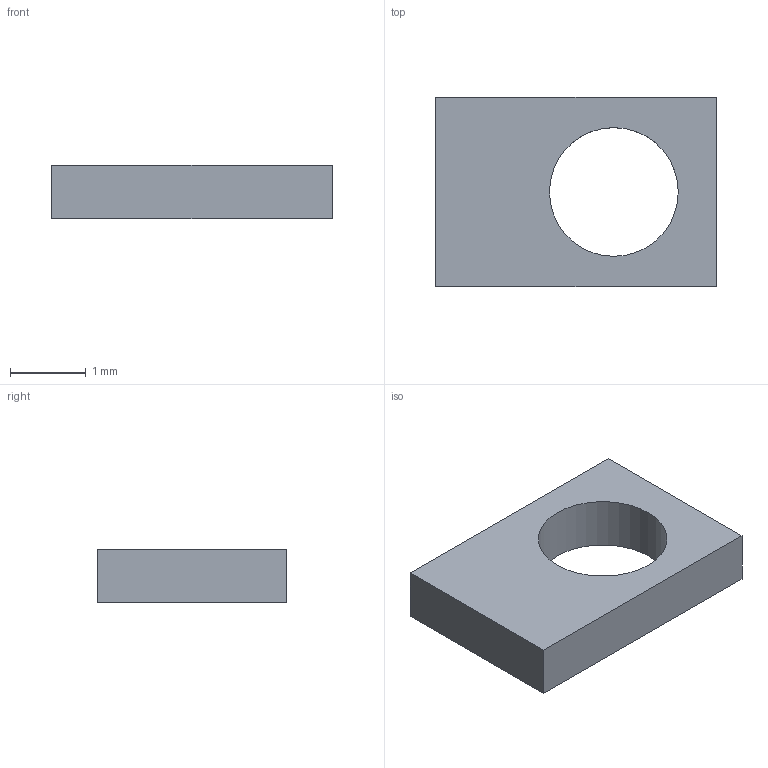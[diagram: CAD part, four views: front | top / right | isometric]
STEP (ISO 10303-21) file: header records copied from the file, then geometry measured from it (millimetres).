
FILE_DESCRIPTION(('Open CASCADE Model'),'2;1');
FILE_NAME('Open CASCADE Shape Model','2026-09-24T17:43:03',('Author'),( 'Open CASCADE'),'Open CASCADE STEP processor 7.8','Open CASCADE 7.8' ,'Unknown');
FILE_SCHEMA(('AUTOMOTIVE_DESIGN { 1 0 10303 214 1 1 1 1 }'));
Length unit declared in the file: millimetre
Products named in the file (1): Open CASCADE STEP translator 7.8 37
Bounding box: 3.7 x 2.5 x 0.7 mm (x, y, z)
Volume: 4.9 mm3; surface area: 26.4 mm2
Topology: 1 solids, 1 shells, 7 faces, 15 edges, 10 vertices
Faces by surface type: plane 6, cylinder 1
Full cylindrical faces by diameter (mm): 1.7 x1
Entity records: 400 total; most frequent: CARTESIAN_POINT 63, DIRECTION 63, LINE 41, VECTOR 41, ORIENTED_EDGE 30, PCURVE 30, DEFINITIONAL_REPRESENTATION 30, EDGE_CURVE 15
